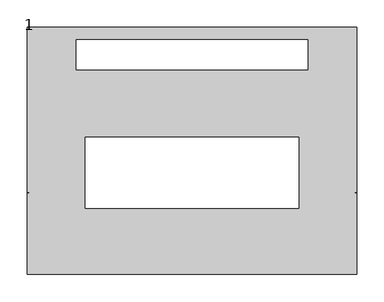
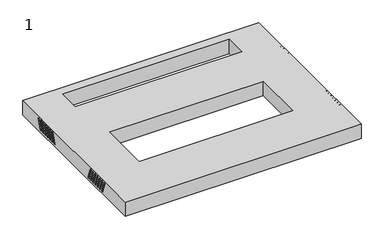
"""IFC4 building model written with IfcOpenShell, lengths in millimetres: proxy geometry, 1."""

from ifc_helpers import new_model, si_unit, frame, origin, place, context, project, spatial, polyline, circle_curve, source, transform, mapped, element, save
from ifc_brep_helpers import plane_surface, revolved_surface, advanced_brep


def proxy_1_b26e7d1d(model_context):
    return source(origin(), model_context, "Body", "AdvancedBrep", [
        advanced_brep(
        [(298.0, -135.8, 745.7479679), (298.0, -126.9074763, 721.3159597), (298.0, -123.1487058, 722.6840403), (298.0, -132.0412295, 747.1160484), (298.0, -125.8, 745.7479679), (298.0, -116.9074763, 721.3159597), (298.0, -113.1487058, 722.6840403), (298.0, -122.0412295, 747.1160484), (298.0, -115.8, 745.7479679), (298.0, -106.9074763, 721.3159597), (298.0, -103.1487058, 722.6840403), (298.0, -112.0412295, 747.1160484), (298.0, -105.8, 745.7479679), (298.0, -96.9074763, 721.3159597), (298.0, -93.1487058, 722.6840403), (298.0, -102.0412295, 747.1160484), (298.0, -95.8, 745.7479679), (298.0, -86.9074763, 721.3159597), (298.0, -83.1487058, 722.6840403), (298.0, -92.0412295, 747.1160484), (298.0, -85.8, 745.7479679), (298.0, -76.9074763, 721.3159597), (298.0, -73.1487058, 722.6840403), (298.0, -82.0412295, 747.1160484), (298.0, -75.8, 745.7479679), (298.0, -66.9074763, 721.3159597), (298.0, -63.1487058, 722.6840403), (298.0, -72.0412295, 747.1160484), (300.0, -132.0412295, 747.1160484), (300.0, -135.8, 745.7479679), (300.0, -123.1487058, 722.6840403), (300.0, -126.9074763, 721.3159597), (300.0, -122.0412295, 747.1160484), (300.0, -125.8, 745.7479679), (300.0, -113.1487058, 722.6840403), (300.0, -116.9074763, 721.3159597), (300.0, -112.0412295, 747.1160484), (300.0, -115.8, 745.7479679), (300.0, -103.1487058, 722.6840403), (300.0, -106.9074763, 721.3159597), (300.0, -102.0412295, 747.1160484), (300.0, -105.8, 745.7479679), (300.0, -93.1487058, 722.6840403), (300.0, -96.9074763, 721.3159597), (300.0, -92.0412295, 747.1160484), (300.0, -95.8, 745.7479679), (300.0, -83.1487058, 722.6840403), (300.0, -86.9074763, 721.3159597), (300.0, -82.0412295, 747.1160484), (300.0, -85.8, 745.7479679), (300.0, -73.1487058, 722.6840403), (300.0, -76.9074763, 721.3159597), (300.0, -72.0412295, 747.1160484), (300.0, -75.8, 745.7479679), (300.0, -63.1487058, 722.6840403), (300.0, -66.9074763, 721.3159597), (300.0, 225.0, 714.0), (300.0, -225.0, 714.0), (-300.0, -225.0, 714.0), (-300.0, 225.0, 714.0), (-211.0, 147.5, 714.0), (211.0, 147.5, 714.0), (211.0, 202.5, 714.0), (-211.0, 202.5, 714.0), (195.0, 25.0, 714.0), (-195.0, 25.0, 714.0), (-195.0, -105.0, 714.0), (195.0, -105.0, 714.0), (300.0, 225.0, 752.0), (-300.0, 225.0, 752.0), (-300.0, -225.0, 752.0), (300.0, -225.0, 752.0), (-211.0, 147.5, 752.0), (-211.0, 202.5, 752.0), (211.0, 202.5, 752.0), (211.0, 147.5, 752.0), (195.0, 25.0, 752.0), (195.0, -105.0, 752.0), (-195.0, -105.0, 752.0), (-195.0, 25.0, 752.0), (-300.0, -66.9074763, 721.3159597), (-300.0, -63.1487058, 722.6840403), (-300.0, -72.0412295, 747.1160484), (-300.0, -75.8, 745.7479679), (-300.0, -76.9074763, 721.3159597), (-300.0, -73.1487058, 722.6840403), (-300.0, -82.0412295, 747.1160484), (-300.0, -85.8, 745.7479679), (-300.0, -86.9074763, 721.3159597), (-300.0, -83.1487058, 722.6840403), (-300.0, -92.0412295, 747.1160484), (-300.0, -95.8, 745.7479679), (-300.0, -96.9074763, 721.3159597), (-300.0, -93.1487058, 722.6840403), (-300.0, -102.0412295, 747.1160484), (-300.0, -105.8, 745.7479679), (-300.0, -106.9074763, 721.3159597), (-300.0, -103.1487058, 722.6840403), (-300.0, -112.0412295, 747.1160484), (-300.0, -115.8, 745.7479679), (-300.0, -116.9074763, 721.3159597), (-300.0, -113.1487058, 722.6840403), (-300.0, -122.0412295, 747.1160484), (-300.0, -125.8, 745.7479679), (-300.0, -126.9074763, 721.3159597), (-300.0, -123.1487058, 722.6840403), (-300.0, -132.0412295, 747.1160484), (-300.0, -135.8, 745.7479679), (-300.0, 96.0, 745.7479679), (-300.0, 92.2412295, 747.1160484), (-300.0, 83.3487058, 722.6840403), (-300.0, 87.1074763, 721.3159597), (-300.0, 106.0, 745.7479679), (-300.0, 102.2412295, 747.1160484), (-300.0, 93.3487058, 722.6840403), (-300.0, 97.1074763, 721.3159597), (-300.0, 116.0, 745.7479679), (-300.0, 112.2412295, 747.1160484), (-300.0, 103.3487058, 722.6840403), (-300.0, 107.1074763, 721.3159597), (-300.0, 126.0, 745.7479679), (-300.0, 122.2412295, 747.1160484), (-300.0, 113.3487058, 722.6840403), (-300.0, 117.1074763, 721.3159597), (-300.0, 136.0, 745.7479679), (-300.0, 132.2412295, 747.1160484), (-300.0, 123.3487058, 722.6840403), (-300.0, 127.1074763, 721.3159597), (-300.0, 146.0, 745.7479679), (-300.0, 142.2412295, 747.1160484), (-300.0, 133.3487058, 722.6840403), (-300.0, 137.1074763, 721.3159597), (-300.0, 156.0, 745.7479679), (-300.0, 152.2412295, 747.1160484), (-300.0, 143.3487058, 722.6840403), (-300.0, 147.1074763, 721.3159597), (300.0, 152.2412295, 747.1160484), (300.0, 156.0, 745.7479679), (300.0, 147.1074763, 721.3159597), (300.0, 143.3487058, 722.6840403), (300.0, 142.2412295, 747.1160484), (300.0, 146.0, 745.7479679), (300.0, 137.1074763, 721.3159597), (300.0, 133.3487058, 722.6840403), (300.0, 132.2412295, 747.1160484), (300.0, 136.0, 745.7479679), (300.0, 127.1074763, 721.3159597), (300.0, 123.3487058, 722.6840403), (300.0, 122.2412295, 747.1160484), (300.0, 126.0, 745.7479679), (300.0, 117.1074763, 721.3159597), (300.0, 113.3487058, 722.6840403), (300.0, 112.2412295, 747.1160484), (300.0, 116.0, 745.7479679), (300.0, 107.1074763, 721.3159597), (300.0, 103.3487058, 722.6840403), (300.0, 102.2412295, 747.1160484), (300.0, 106.0, 745.7479679), (300.0, 97.1074763, 721.3159597), (300.0, 93.3487058, 722.6840403), (300.0, 92.2412295, 747.1160484), (300.0, 96.0, 745.7479679), (300.0, 87.1074763, 721.3159597), (300.0, 83.3487058, 722.6840403), (298.0, 156.0, 745.7479679), (298.0, 152.2412295, 747.1160484), (298.0, 143.3487058, 722.6840403), (298.0, 147.1074763, 721.3159597), (298.0, 146.0, 745.7479679), (298.0, 142.2412295, 747.1160484), (298.0, 133.3487058, 722.6840403), (298.0, 137.1074763, 721.3159597), (298.0, 136.0, 745.7479679), (298.0, 132.2412295, 747.1160484), (298.0, 123.3487058, 722.6840403), (298.0, 127.1074763, 721.3159597), (298.0, 126.0, 745.7479679), (298.0, 122.2412295, 747.1160484), (298.0, 113.3487058, 722.6840403), (298.0, 117.1074763, 721.3159597), (298.0, 116.0, 745.7479679), (298.0, 112.2412295, 747.1160484), (298.0, 103.3487058, 722.6840403), (298.0, 107.1074763, 721.3159597), (298.0, 106.0, 745.7479679), (298.0, 102.2412295, 747.1160484), (298.0, 93.3487058, 722.6840403), (298.0, 97.1074763, 721.3159597), (298.0, 96.0, 745.7479679), (298.0, 92.2412295, 747.1160484), (298.0, 83.3487058, 722.6840403), (298.0, 87.1074763, 721.3159597), (-298.0, -63.1487058, 722.6840403), (-298.0, -66.9074763, 721.3159597), (-298.0, -75.8, 745.7479679), (-298.0, -72.0412295, 747.1160484), (-298.0, -73.1487058, 722.6840403), (-298.0, -76.9074763, 721.3159597), (-298.0, -85.8, 745.7479679), (-298.0, -82.0412295, 747.1160484), (-298.0, -83.1487058, 722.6840403), (-298.0, -86.9074763, 721.3159597), (-298.0, -95.8, 745.7479679), (-298.0, -92.0412295, 747.1160484), (-298.0, -93.1487058, 722.6840403), (-298.0, -96.9074763, 721.3159597), (-298.0, -105.8, 745.7479679), (-298.0, -102.0412295, 747.1160484), (-298.0, -103.1487058, 722.6840403), (-298.0, -106.9074763, 721.3159597), (-298.0, -115.8, 745.7479679), (-298.0, -112.0412295, 747.1160484), (-298.0, -113.1487058, 722.6840403), (-298.0, -116.9074763, 721.3159597), (-298.0, -125.8, 745.7479679), (-298.0, -122.0412295, 747.1160484), (-298.0, -123.1487058, 722.6840403), (-298.0, -126.9074763, 721.3159597), (-298.0, -135.8, 745.7479679), (-298.0, -132.0412295, 747.1160484), (-298.0, 92.2412295, 747.1160484), (-298.0, 96.0, 745.7479679), (-298.0, 87.1074763, 721.3159597), (-298.0, 83.3487058, 722.6840403), (-298.0, 102.2412295, 747.1160484), (-298.0, 106.0, 745.7479679), (-298.0, 97.1074763, 721.3159597), (-298.0, 93.3487058, 722.6840403), (-298.0, 112.2412295, 747.1160484), (-298.0, 116.0, 745.7479679), (-298.0, 107.1074763, 721.3159597), (-298.0, 103.3487058, 722.6840403), (-298.0, 122.2412295, 747.1160484), (-298.0, 126.0, 745.7479679), (-298.0, 117.1074763, 721.3159597), (-298.0, 113.3487058, 722.6840403), (-298.0, 132.2412295, 747.1160484), (-298.0, 136.0, 745.7479679), (-298.0, 127.1074763, 721.3159597), (-298.0, 123.3487058, 722.6840403), (-298.0, 142.2412295, 747.1160484), (-298.0, 146.0, 745.7479679), (-298.0, 137.1074763, 721.3159597), (-298.0, 133.3487058, 722.6840403), (-298.0, 152.2412295, 747.1160484), (-298.0, 156.0, 745.7479679), (-298.0, 147.1074763, 721.3159597), (-298.0, 143.3487058, 722.6840403)],
        [
            (0, 1),
            (1, 2, circle_curve(frame((298.0, -125.028091, 722.0), z_axis=(1.0, 0.0, 0.0), x_axis=(0.0, -1.0, 0.0)), 2.0)),
            (2, 3),
            (3, 0, circle_curve(frame((298.0, -133.9206148, 746.4320081), z_axis=(1.0, 0.0, 0.0), x_axis=(0.0, -1.0, 0.0)), 2.0)),
            (4, 5),
            (5, 6, circle_curve(frame((298.0, -115.028091, 722.0), z_axis=(1.0, 0.0, 0.0), x_axis=(0.0, -1.0, 0.0)), 2.0)),
            (6, 7),
            (7, 4, circle_curve(frame((298.0, -123.9206148, 746.4320081), z_axis=(1.0, 0.0, 0.0), x_axis=(0.0, -1.0, 0.0)), 2.0)),
            (8, 9),
            (9, 10, circle_curve(frame((298.0, -105.028091, 722.0), z_axis=(1.0, 0.0, 0.0), x_axis=(0.0, -1.0, 0.0)), 2.0)),
            (10, 11),
            (11, 8, circle_curve(frame((298.0, -113.9206148, 746.4320081), z_axis=(1.0, 0.0, 0.0), x_axis=(0.0, -1.0, 0.0)), 2.0)),
            (12, 13),
            (13, 14, circle_curve(frame((298.0, -95.028091, 722.0), z_axis=(1.0, 0.0, 0.0), x_axis=(0.0, -1.0, 0.0)), 2.0)),
            (14, 15),
            (15, 12, circle_curve(frame((298.0, -103.9206148, 746.4320081), z_axis=(1.0, 0.0, 0.0), x_axis=(0.0, -1.0, 0.0)), 2.0)),
            (16, 17),
            (17, 18, circle_curve(frame((298.0, -85.028091, 722.0), z_axis=(1.0, 0.0, 0.0), x_axis=(0.0, -1.0, 0.0)), 2.0)),
            (18, 19),
            (19, 16, circle_curve(frame((298.0, -93.9206148, 746.4320081), z_axis=(1.0, 0.0, 0.0), x_axis=(0.0, -1.0, 0.0)), 2.0)),
            (20, 21),
            (21, 22, circle_curve(frame((298.0, -75.028091, 722.0), z_axis=(1.0, 0.0, 0.0), x_axis=(0.0, -1.0, 0.0)), 2.0)),
            (22, 23),
            (23, 20, circle_curve(frame((298.0, -83.9206148, 746.4320081), z_axis=(1.0, 0.0, 0.0), x_axis=(0.0, -1.0, 0.0)), 2.0)),
            (24, 25),
            (25, 26, circle_curve(frame((298.0, -65.028091, 722.0), z_axis=(1.0, 0.0, 0.0), x_axis=(0.0, -1.0, 0.0)), 2.0)),
            (26, 27),
            (27, 24, circle_curve(frame((298.0, -73.9206148, 746.4320081), z_axis=(1.0, 0.0, 0.0), x_axis=(0.0, -1.0, 0.0)), 2.0)),
            (3, 28),
            (28, 29, circle_curve(frame((300.0, -133.9206148, 746.4320081), z_axis=(1.0, 0.0, 0.0), x_axis=(0.0, -1.0, 0.0)), 2.0)),
            (29, 0),
            (2, 30),
            (30, 28),
            (1, 31),
            (31, 30, circle_curve(frame((300.0, -125.028091, 722.0), z_axis=(1.0, 0.0, 0.0), x_axis=(0.0, -1.0, 0.0)), 2.0)),
            (29, 31),
            (7, 32),
            (32, 33, circle_curve(frame((300.0, -123.9206148, 746.4320081), z_axis=(1.0, 0.0, 0.0), x_axis=(0.0, -1.0, 0.0)), 2.0)),
            (33, 4),
            (6, 34),
            (34, 32),
            (5, 35),
            (35, 34, circle_curve(frame((300.0, -115.028091, 722.0), z_axis=(1.0, 0.0, 0.0), x_axis=(0.0, -1.0, 0.0)), 2.0)),
            (33, 35),
            (11, 36),
            (36, 37, circle_curve(frame((300.0, -113.9206148, 746.4320081), z_axis=(1.0, 0.0, 0.0), x_axis=(0.0, -1.0, 0.0)), 2.0)),
            (37, 8),
            (10, 38),
            (38, 36),
            (9, 39),
            (39, 38, circle_curve(frame((300.0, -105.028091, 722.0), z_axis=(1.0, 0.0, 0.0), x_axis=(0.0, -1.0, 0.0)), 2.0)),
            (37, 39),
            (15, 40),
            (40, 41, circle_curve(frame((300.0, -103.9206148, 746.4320081), z_axis=(1.0, 0.0, 0.0), x_axis=(0.0, -1.0, 0.0)), 2.0)),
            (41, 12),
            (14, 42),
            (42, 40),
            (13, 43),
            (43, 42, circle_curve(frame((300.0, -95.028091, 722.0), z_axis=(1.0, 0.0, 0.0), x_axis=(0.0, -1.0, 0.0)), 2.0)),
            (41, 43),
            (19, 44),
            (44, 45, circle_curve(frame((300.0, -93.9206148, 746.4320081), z_axis=(1.0, 0.0, 0.0), x_axis=(0.0, -1.0, 0.0)), 2.0)),
            (45, 16),
            (18, 46),
            (46, 44),
            (17, 47),
            (47, 46, circle_curve(frame((300.0, -85.028091, 722.0), z_axis=(1.0, 0.0, 0.0), x_axis=(0.0, -1.0, 0.0)), 2.0)),
            (45, 47),
            (23, 48),
            (48, 49, circle_curve(frame((300.0, -83.9206148, 746.4320081), z_axis=(1.0, 0.0, 0.0), x_axis=(0.0, -1.0, 0.0)), 2.0)),
            (49, 20),
            (22, 50),
            (50, 48),
            (21, 51),
            (51, 50, circle_curve(frame((300.0, -75.028091, 722.0), z_axis=(1.0, 0.0, 0.0), x_axis=(0.0, -1.0, 0.0)), 2.0)),
            (49, 51),
            (27, 52),
            (52, 53, circle_curve(frame((300.0, -73.9206148, 746.4320081), z_axis=(1.0, 0.0, 0.0), x_axis=(0.0, -1.0, 0.0)), 2.0)),
            (53, 24),
            (26, 54),
            (54, 52),
            (25, 55),
            (55, 54, circle_curve(frame((300.0, -65.028091, 722.0), z_axis=(1.0, 0.0, 0.0), x_axis=(0.0, -1.0, 0.0)), 2.0)),
            (53, 55),
            (56, 57),
            (57, 58),
            (58, 59),
            (59, 56),
            (60, 61),
            (61, 62),
            (62, 63),
            (63, 60),
            (64, 65),
            (65, 66),
            (66, 67),
            (67, 64),
            (68, 69),
            (69, 70),
            (70, 71),
            (71, 68),
            (72, 73),
            (73, 74),
            (74, 75),
            (75, 72),
            (76, 77),
            (77, 78),
            (78, 79),
            (79, 76),
            (59, 69),
            (68, 56),
            (58, 70),
            (80, 81, circle_curve(frame((-300.0, -65.028091, 722.0), z_axis=(1.0, 0.0, 0.0), x_axis=(0.0, 1.0, 0.0)), 2.0)),
            (81, 82),
            (82, 83, circle_curve(frame((-300.0, -73.9206148, 746.4320081), z_axis=(1.0, 0.0, 0.0), x_axis=(0.0, 1.0, 0.0)), 2.0)),
            (83, 80),
            (84, 85, circle_curve(frame((-300.0, -75.028091, 722.0), z_axis=(1.0, 0.0, 0.0), x_axis=(0.0, 1.0, 0.0)), 2.0)),
            (85, 86),
            (86, 87, circle_curve(frame((-300.0, -83.9206148, 746.4320081), z_axis=(1.0, 0.0, 0.0), x_axis=(0.0, 1.0, 0.0)), 2.0)),
            (87, 84),
            (88, 89, circle_curve(frame((-300.0, -85.028091, 722.0), z_axis=(1.0, 0.0, 0.0), x_axis=(0.0, 1.0, 0.0)), 2.0)),
            (89, 90),
            (90, 91, circle_curve(frame((-300.0, -93.9206148, 746.4320081), z_axis=(1.0, 0.0, 0.0), x_axis=(0.0, 1.0, 0.0)), 2.0)),
            (91, 88),
            (92, 93, circle_curve(frame((-300.0, -95.028091, 722.0), z_axis=(1.0, 0.0, 0.0), x_axis=(0.0, 1.0, 0.0)), 2.0)),
            (93, 94),
            (94, 95, circle_curve(frame((-300.0, -103.9206148, 746.4320081), z_axis=(1.0, 0.0, 0.0), x_axis=(0.0, 1.0, 0.0)), 2.0)),
            (95, 92),
            (96, 97, circle_curve(frame((-300.0, -105.028091, 722.0), z_axis=(1.0, 0.0, 0.0), x_axis=(0.0, 1.0, 0.0)), 2.0)),
            (97, 98),
            (98, 99, circle_curve(frame((-300.0, -113.9206148, 746.4320081), z_axis=(1.0, 0.0, 0.0), x_axis=(0.0, 1.0, 0.0)), 2.0)),
            (99, 96),
            (100, 101, circle_curve(frame((-300.0, -115.028091, 722.0), z_axis=(1.0, 0.0, 0.0), x_axis=(0.0, 1.0, 0.0)), 2.0)),
            (101, 102),
            (102, 103, circle_curve(frame((-300.0, -123.9206148, 746.4320081), z_axis=(1.0, 0.0, 0.0), x_axis=(0.0, 1.0, 0.0)), 2.0)),
            (103, 100),
            (104, 105, circle_curve(frame((-300.0, -125.028091, 722.0), z_axis=(1.0, 0.0, 0.0), x_axis=(0.0, 1.0, 0.0)), 2.0)),
            (105, 106),
            (106, 107, circle_curve(frame((-300.0, -133.9206148, 746.4320081), z_axis=(1.0, 0.0, 0.0), x_axis=(0.0, 1.0, 0.0)), 2.0)),
            (107, 104),
            (108, 109, circle_curve(frame((-300.0, 94.1206148, 746.4320081), z_axis=(1.0, 0.0, 0.0), x_axis=(0.0, 1.0, 0.0)), 2.0)),
            (109, 110),
            (110, 111, circle_curve(frame((-300.0, 85.228091, 722.0), z_axis=(1.0, 0.0, 0.0), x_axis=(0.0, 1.0, 0.0)), 2.0)),
            (111, 108),
            (112, 113, circle_curve(frame((-300.0, 104.1206148, 746.4320081), z_axis=(1.0, 0.0, 0.0), x_axis=(0.0, 1.0, 0.0)), 2.0)),
            (113, 114),
            (114, 115, circle_curve(frame((-300.0, 95.228091, 722.0), z_axis=(1.0, 0.0, 0.0), x_axis=(0.0, 1.0, 0.0)), 2.0)),
            (115, 112),
            (116, 117, circle_curve(frame((-300.0, 114.1206148, 746.4320081), z_axis=(1.0, 0.0, 0.0), x_axis=(0.0, 1.0, 0.0)), 2.0)),
            (117, 118),
            (118, 119, circle_curve(frame((-300.0, 105.228091, 722.0), z_axis=(1.0, 0.0, 0.0), x_axis=(0.0, 1.0, 0.0)), 2.0)),
            (119, 116),
            (120, 121, circle_curve(frame((-300.0, 124.1206148, 746.4320081), z_axis=(1.0, 0.0, 0.0), x_axis=(0.0, 1.0, 0.0)), 2.0)),
            (121, 122),
            (122, 123, circle_curve(frame((-300.0, 115.228091, 722.0), z_axis=(1.0, 0.0, 0.0), x_axis=(0.0, 1.0, 0.0)), 2.0)),
            (123, 120),
            (124, 125, circle_curve(frame((-300.0, 134.1206148, 746.4320081), z_axis=(1.0, 0.0, 0.0), x_axis=(0.0, 1.0, 0.0)), 2.0)),
            (125, 126),
            (126, 127, circle_curve(frame((-300.0, 125.228091, 722.0), z_axis=(1.0, 0.0, 0.0), x_axis=(0.0, 1.0, 0.0)), 2.0)),
            (127, 124),
            (128, 129, circle_curve(frame((-300.0, 144.1206148, 746.4320081), z_axis=(1.0, 0.0, 0.0), x_axis=(0.0, 1.0, 0.0)), 2.0)),
            (129, 130),
            (130, 131, circle_curve(frame((-300.0, 135.228091, 722.0), z_axis=(1.0, 0.0, 0.0), x_axis=(0.0, 1.0, 0.0)), 2.0)),
            (131, 128),
            (132, 133, circle_curve(frame((-300.0, 154.1206148, 746.4320081), z_axis=(1.0, 0.0, 0.0), x_axis=(0.0, 1.0, 0.0)), 2.0)),
            (133, 134),
            (134, 135, circle_curve(frame((-300.0, 145.228091, 722.0), z_axis=(1.0, 0.0, 0.0), x_axis=(0.0, 1.0, 0.0)), 2.0)),
            (135, 132),
            (57, 71),
            (136, 137, circle_curve(frame((300.0, 154.1206148, 746.4320081), z_axis=(-1.0, 0.0, 0.0), x_axis=(0.0, 1.0, 0.0)), 2.0)),
            (137, 138),
            (138, 139, circle_curve(frame((300.0, 145.228091, 722.0), z_axis=(-1.0, 0.0, 0.0), x_axis=(0.0, 1.0, 0.0)), 2.0)),
            (139, 136),
            (140, 141, circle_curve(frame((300.0, 144.1206148, 746.4320081), z_axis=(-1.0, 0.0, 0.0), x_axis=(0.0, 1.0, 0.0)), 2.0)),
            (141, 142),
            (142, 143, circle_curve(frame((300.0, 135.228091, 722.0), z_axis=(-1.0, 0.0, 0.0), x_axis=(0.0, 1.0, 0.0)), 2.0)),
            (143, 140),
            (144, 145, circle_curve(frame((300.0, 134.1206148, 746.4320081), z_axis=(-1.0, 0.0, 0.0), x_axis=(0.0, 1.0, 0.0)), 2.0)),
            (145, 146),
            (146, 147, circle_curve(frame((300.0, 125.228091, 722.0), z_axis=(-1.0, 0.0, 0.0), x_axis=(0.0, 1.0, 0.0)), 2.0)),
            (147, 144),
            (148, 149, circle_curve(frame((300.0, 124.1206148, 746.4320081), z_axis=(-1.0, 0.0, 0.0), x_axis=(0.0, 1.0, 0.0)), 2.0)),
            (149, 150),
            (150, 151, circle_curve(frame((300.0, 115.228091, 722.0), z_axis=(-1.0, 0.0, 0.0), x_axis=(0.0, 1.0, 0.0)), 2.0)),
            (151, 148),
            (152, 153, circle_curve(frame((300.0, 114.1206148, 746.4320081), z_axis=(-1.0, 0.0, 0.0), x_axis=(0.0, 1.0, 0.0)), 2.0)),
            (153, 154),
            (154, 155, circle_curve(frame((300.0, 105.228091, 722.0), z_axis=(-1.0, 0.0, 0.0), x_axis=(0.0, 1.0, 0.0)), 2.0)),
            (155, 152),
            (156, 157, circle_curve(frame((300.0, 104.1206148, 746.4320081), z_axis=(-1.0, 0.0, 0.0), x_axis=(0.0, 1.0, 0.0)), 2.0)),
            (157, 158),
            (158, 159, circle_curve(frame((300.0, 95.228091, 722.0), z_axis=(-1.0, 0.0, 0.0), x_axis=(0.0, 1.0, 0.0)), 2.0)),
            (159, 156),
            (160, 161, circle_curve(frame((300.0, 94.1206148, 746.4320081), z_axis=(-1.0, 0.0, 0.0), x_axis=(0.0, 1.0, 0.0)), 2.0)),
            (161, 162),
            (162, 163, circle_curve(frame((300.0, 85.228091, 722.0), z_axis=(-1.0, 0.0, 0.0), x_axis=(0.0, 1.0, 0.0)), 2.0)),
            (163, 160),
            (63, 73),
            (72, 60),
            (62, 74),
            (61, 75),
            (67, 77),
            (76, 64),
            (66, 78),
            (65, 79),
            (164, 165, circle_curve(frame((298.0, 154.1206148, 746.4320081), z_axis=(1.0, 0.0, 0.0), x_axis=(0.0, 1.0, 0.0)), 2.0)),
            (165, 166),
            (166, 167, circle_curve(frame((298.0, 145.228091, 722.0), z_axis=(1.0, 0.0, 0.0), x_axis=(0.0, 1.0, 0.0)), 2.0)),
            (167, 164),
            (168, 169, circle_curve(frame((298.0, 144.1206148, 746.4320081), z_axis=(1.0, 0.0, 0.0), x_axis=(0.0, 1.0, 0.0)), 2.0)),
            (169, 170),
            (170, 171, circle_curve(frame((298.0, 135.228091, 722.0), z_axis=(1.0, 0.0, 0.0), x_axis=(0.0, 1.0, 0.0)), 2.0)),
            (171, 168),
            (172, 173, circle_curve(frame((298.0, 134.1206148, 746.4320081), z_axis=(1.0, 0.0, 0.0), x_axis=(0.0, 1.0, 0.0)), 2.0)),
            (173, 174),
            (174, 175, circle_curve(frame((298.0, 125.228091, 722.0), z_axis=(1.0, 0.0, 0.0), x_axis=(0.0, 1.0, 0.0)), 2.0)),
            (175, 172),
            (176, 177, circle_curve(frame((298.0, 124.1206148, 746.4320081), z_axis=(1.0, 0.0, 0.0), x_axis=(0.0, 1.0, 0.0)), 2.0)),
            (177, 178),
            (178, 179, circle_curve(frame((298.0, 115.228091, 722.0), z_axis=(1.0, 0.0, 0.0), x_axis=(0.0, 1.0, 0.0)), 2.0)),
            (179, 176),
            (180, 181, circle_curve(frame((298.0, 114.1206148, 746.4320081), z_axis=(1.0, 0.0, 0.0), x_axis=(0.0, 1.0, 0.0)), 2.0)),
            (181, 182),
            (182, 183, circle_curve(frame((298.0, 105.228091, 722.0), z_axis=(1.0, 0.0, 0.0), x_axis=(0.0, 1.0, 0.0)), 2.0)),
            (183, 180),
            (184, 185, circle_curve(frame((298.0, 104.1206148, 746.4320081), z_axis=(1.0, 0.0, 0.0), x_axis=(0.0, 1.0, 0.0)), 2.0)),
            (185, 186),
            (186, 187, circle_curve(frame((298.0, 95.228091, 722.0), z_axis=(1.0, 0.0, 0.0), x_axis=(0.0, 1.0, 0.0)), 2.0)),
            (187, 184),
            (188, 189, circle_curve(frame((298.0, 94.1206148, 746.4320081), z_axis=(1.0, 0.0, 0.0), x_axis=(0.0, 1.0, 0.0)), 2.0)),
            (189, 190),
            (190, 191, circle_curve(frame((298.0, 85.228091, 722.0), z_axis=(1.0, 0.0, 0.0), x_axis=(0.0, 1.0, 0.0)), 2.0)),
            (191, 188),
            (164, 137),
            (136, 165),
            (139, 166),
            (138, 167),
            (168, 141),
            (140, 169),
            (143, 170),
            (142, 171),
            (172, 145),
            (144, 173),
            (147, 174),
            (146, 175),
            (176, 149),
            (148, 177),
            (151, 178),
            (150, 179),
            (180, 153),
            (152, 181),
            (155, 182),
            (154, 183),
            (184, 157),
            (156, 185),
            (159, 186),
            (158, 187),
            (188, 161),
            (160, 189),
            (163, 190),
            (162, 191),
            (192, 193, circle_curve(frame((-298.0, -65.028091, 722.0), z_axis=(-1.0, 0.0, 0.0), x_axis=(0.0, 1.0, 0.0)), 2.0)),
            (193, 194),
            (194, 195, circle_curve(frame((-298.0, -73.9206148, 746.4320081), z_axis=(-1.0, 0.0, 0.0), x_axis=(0.0, 1.0, 0.0)), 2.0)),
            (195, 192),
            (196, 197, circle_curve(frame((-298.0, -75.028091, 722.0), z_axis=(-1.0, 0.0, 0.0), x_axis=(0.0, 1.0, 0.0)), 2.0)),
            (197, 198),
            (198, 199, circle_curve(frame((-298.0, -83.9206148, 746.4320081), z_axis=(-1.0, 0.0, 0.0), x_axis=(0.0, 1.0, 0.0)), 2.0)),
            (199, 196),
            (200, 201, circle_curve(frame((-298.0, -85.028091, 722.0), z_axis=(-1.0, 0.0, 0.0), x_axis=(0.0, 1.0, 0.0)), 2.0)),
            (201, 202),
            (202, 203, circle_curve(frame((-298.0, -93.9206148, 746.4320081), z_axis=(-1.0, 0.0, 0.0), x_axis=(0.0, 1.0, 0.0)), 2.0)),
            (203, 200),
            (204, 205, circle_curve(frame((-298.0, -95.028091, 722.0), z_axis=(-1.0, 0.0, 0.0), x_axis=(0.0, 1.0, 0.0)), 2.0)),
            (205, 206),
            (206, 207, circle_curve(frame((-298.0, -103.9206148, 746.4320081), z_axis=(-1.0, 0.0, 0.0), x_axis=(0.0, 1.0, 0.0)), 2.0)),
            (207, 204),
            (208, 209, circle_curve(frame((-298.0, -105.028091, 722.0), z_axis=(-1.0, 0.0, 0.0), x_axis=(0.0, 1.0, 0.0)), 2.0)),
            (209, 210),
            (210, 211, circle_curve(frame((-298.0, -113.9206148, 746.4320081), z_axis=(-1.0, 0.0, 0.0), x_axis=(0.0, 1.0, 0.0)), 2.0)),
            (211, 208),
            (212, 213, circle_curve(frame((-298.0, -115.028091, 722.0), z_axis=(-1.0, 0.0, 0.0), x_axis=(0.0, 1.0, 0.0)), 2.0)),
            (213, 214),
            (214, 215, circle_curve(frame((-298.0, -123.9206148, 746.4320081), z_axis=(-1.0, 0.0, 0.0), x_axis=(0.0, 1.0, 0.0)), 2.0)),
            (215, 212),
            (216, 217, circle_curve(frame((-298.0, -125.028091, 722.0), z_axis=(-1.0, 0.0, 0.0), x_axis=(0.0, 1.0, 0.0)), 2.0)),
            (217, 218),
            (218, 219, circle_curve(frame((-298.0, -133.9206148, 746.4320081), z_axis=(-1.0, 0.0, 0.0), x_axis=(0.0, 1.0, 0.0)), 2.0)),
            (219, 216),
            (192, 81),
            (80, 193),
            (83, 194),
            (82, 195),
            (196, 85),
            (84, 197),
            (87, 198),
            (86, 199),
            (200, 89),
            (88, 201),
            (91, 202),
            (90, 203),
            (204, 93),
            (92, 205),
            (95, 206),
            (94, 207),
            (208, 97),
            (96, 209),
            (99, 210),
            (98, 211),
            (212, 101),
            (100, 213),
            (103, 214),
            (102, 215),
            (216, 105),
            (104, 217),
            (107, 218),
            (106, 219),
            (220, 221, circle_curve(frame((-298.0, 94.1206148, 746.4320081), z_axis=(-1.0, 0.0, 0.0), x_axis=(0.0, 1.0, 0.0)), 2.0)),
            (221, 222),
            (222, 223, circle_curve(frame((-298.0, 85.228091, 722.0), z_axis=(-1.0, 0.0, 0.0), x_axis=(0.0, 1.0, 0.0)), 2.0)),
            (223, 220),
            (224, 225, circle_curve(frame((-298.0, 104.1206148, 746.4320081), z_axis=(-1.0, 0.0, 0.0), x_axis=(0.0, 1.0, 0.0)), 2.0)),
            (225, 226),
            (226, 227, circle_curve(frame((-298.0, 95.228091, 722.0), z_axis=(-1.0, 0.0, 0.0), x_axis=(0.0, 1.0, 0.0)), 2.0)),
            (227, 224),
            (228, 229, circle_curve(frame((-298.0, 114.1206148, 746.4320081), z_axis=(-1.0, 0.0, 0.0), x_axis=(0.0, 1.0, 0.0)), 2.0)),
            (229, 230),
            (230, 231, circle_curve(frame((-298.0, 105.228091, 722.0), z_axis=(-1.0, 0.0, 0.0), x_axis=(0.0, 1.0, 0.0)), 2.0)),
            (231, 228),
            (232, 233, circle_curve(frame((-298.0, 124.1206148, 746.4320081), z_axis=(-1.0, 0.0, 0.0), x_axis=(0.0, 1.0, 0.0)), 2.0)),
            (233, 234),
            (234, 235, circle_curve(frame((-298.0, 115.228091, 722.0), z_axis=(-1.0, 0.0, 0.0), x_axis=(0.0, 1.0, 0.0)), 2.0)),
            (235, 232),
            (236, 237, circle_curve(frame((-298.0, 134.1206148, 746.4320081), z_axis=(-1.0, 0.0, 0.0), x_axis=(0.0, 1.0, 0.0)), 2.0)),
            (237, 238),
            (238, 239, circle_curve(frame((-298.0, 125.228091, 722.0), z_axis=(-1.0, 0.0, 0.0), x_axis=(0.0, 1.0, 0.0)), 2.0)),
            (239, 236),
            (240, 241, circle_curve(frame((-298.0, 144.1206148, 746.4320081), z_axis=(-1.0, 0.0, 0.0), x_axis=(0.0, 1.0, 0.0)), 2.0)),
            (241, 242),
            (242, 243, circle_curve(frame((-298.0, 135.228091, 722.0), z_axis=(-1.0, 0.0, 0.0), x_axis=(0.0, 1.0, 0.0)), 2.0)),
            (243, 240),
            (244, 245, circle_curve(frame((-298.0, 154.1206148, 746.4320081), z_axis=(-1.0, 0.0, 0.0), x_axis=(0.0, 1.0, 0.0)), 2.0)),
            (245, 246),
            (246, 247, circle_curve(frame((-298.0, 145.228091, 722.0), z_axis=(-1.0, 0.0, 0.0), x_axis=(0.0, 1.0, 0.0)), 2.0)),
            (247, 244),
            (220, 109),
            (108, 221),
            (111, 222),
            (110, 223),
            (224, 113),
            (112, 225),
            (115, 226),
            (114, 227),
            (228, 117),
            (116, 229),
            (119, 230),
            (118, 231),
            (232, 121),
            (120, 233),
            (123, 234),
            (122, 235),
            (236, 125),
            (124, 237),
            (127, 238),
            (126, 239),
            (240, 129),
            (128, 241),
            (131, 242),
            (130, 243),
            (244, 133),
            (132, 245),
            (135, 246),
            (134, 247),
        ],
        [
            plane_surface(frame((298.0, -126.9074763, 721.3159597), z_axis=(1.0000000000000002, 0.0, 0.0), x_axis=(0.0, -0.3420201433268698, 0.9396926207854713))),
            revolved_surface(polyline([(300.0, -135.9206148, 746.4320081), (298.0, -135.9206148, 746.4320081)]), (298.0, -133.9206148, 746.4320081), (1.0, 0.0, 0.0)),
            plane_surface(frame((300.0, -123.1487058, 722.6840403), z_axis=(0.0, -0.9396926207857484, -0.3420201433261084), x_axis=(-1.0, 0.0, 0.0))),
            revolved_surface(polyline([(300.0, -127.028091, 722.0), (298.0, -127.028091, 722.0)]), (298.0, -125.028091, 722.0), (1.0, 0.0, 0.0)),
            plane_surface(frame((300.0, -135.8, 745.7479679), z_axis=(0.0, 0.9396926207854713, 0.3420201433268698), x_axis=(-1.0, 0.0, 0.0))),
            revolved_surface(polyline([(300.0, -125.9206148, 746.4320081), (298.0, -125.9206148, 746.4320081)]), (300.0, -123.9206148, 746.4320081), (1.0, 0.0, 0.0)),
            plane_surface(frame((300.0, -113.1487058, 722.6840403), z_axis=(0.0, -0.9396926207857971, -0.3420201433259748), x_axis=(-1.0, 0.0, 0.0))),
            revolved_surface(polyline([(300.0, -117.028091, 722.0), (298.0, -117.028091, 722.0)]), (300.0, -115.028091, 722.0), (1.0, 0.0, 0.0)),
            plane_surface(frame((300.0, -125.8, 745.7479679), z_axis=(0.0, 0.9396926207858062, 0.34202014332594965), x_axis=(-1.0, 0.0, 0.0))),
            revolved_surface(polyline([(300.0, -115.9206148, 746.4320081), (298.0, -115.9206148, 746.4320081)]), (300.0, -113.9206148, 746.4320081), (1.0, 0.0, 0.0)),
            plane_surface(frame((300.0, -103.1487058, 722.6840403), z_axis=(0.0, -0.9396926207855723, -0.3420201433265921), x_axis=(-1.0, 0.0, 0.0))),
            revolved_surface(polyline([(300.0, -107.028091, 722.0), (298.0, -107.028091, 722.0)]), (300.0, -105.028091, 722.0), (1.0, 0.0, 0.0)),
            plane_surface(frame((300.0, -115.8, 745.7479679), z_axis=(0.0, 0.9396926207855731, 0.3420201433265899), x_axis=(-1.0, 0.0, 0.0))),
            revolved_surface(polyline([(300.0, -105.9206148, 746.4320081), (298.0, -105.9206148, 746.4320081)]), (300.0, -103.9206148, 746.4320081), (1.0, 0.0, 0.0)),
            plane_surface(frame((300.0, -93.1487058, 722.6840403), z_axis=(0.0, -0.9396926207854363, -0.34202014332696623), x_axis=(-1.0, 0.0, 0.0))),
            revolved_surface(polyline([(300.0, -97.028091, 722.0), (298.0, -97.028091, 722.0)]), (300.0, -95.028091, 722.0), (1.0, 0.0, 0.0)),
            plane_surface(frame((300.0, -105.8, 745.7479679), z_axis=(0.0, 0.9396926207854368, 0.34202014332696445), x_axis=(-1.0, 0.0, 0.0))),
            revolved_surface(polyline([(300.0, -95.9206148, 746.4320081), (298.0, -95.9206148, 746.4320081)]), (300.0, -93.9206148, 746.4320081), (1.0, 0.0, 0.0)),
            plane_surface(frame((300.0, -83.1487058, 722.6840403), z_axis=(0.0, -0.9396926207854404, -0.3420201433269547), x_axis=(-1.0, 0.0, 0.0))),
            revolved_surface(polyline([(300.0, -87.028091, 722.0), (298.0, -87.028091, 722.0)]), (300.0, -85.028091, 722.0), (1.0, 0.0, 0.0)),
            plane_surface(frame((300.0, -95.8, 745.7479679), z_axis=(0.0, 0.9396926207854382, 0.3420201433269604), x_axis=(-1.0, 0.0, 0.0))),
            revolved_surface(polyline([(300.0, -85.9206148, 746.4320081), (298.0, -85.9206148, 746.4320081)]), (300.0, -83.9206148, 746.4320081), (1.0, 0.0, 0.0)),
            plane_surface(frame((300.0, -73.1487058, 722.6840403), z_axis=(0.0, -0.9396926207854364, -0.3420201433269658), x_axis=(-1.0, 0.0, 0.0))),
            revolved_surface(polyline([(300.0, -77.028091, 722.0), (298.0, -77.028091, 722.0)]), (300.0, -75.028091, 722.0), (1.0, 0.0, 0.0)),
            plane_surface(frame((300.0, -85.8, 745.7479679), z_axis=(0.0, 0.9396926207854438, 0.3420201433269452), x_axis=(-1.0, 0.0, 0.0))),
            revolved_surface(polyline([(300.0, -75.9206148, 746.4320081), (298.0, -75.9206148, 746.4320081)]), (300.0, -73.9206148, 746.4320081), (1.0, 0.0, 0.0)),
            plane_surface(frame((300.0, -63.1487058, 722.6840403), z_axis=(0.0, -0.9396926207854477, -0.3420201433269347), x_axis=(-1.0, 0.0, 0.0))),
            revolved_surface(polyline([(300.0, -67.028091, 722.0), (298.0, -67.028091, 722.0)]), (300.0, -65.028091, 722.0), (1.0, 0.0, 0.0)),
            plane_surface(frame((300.0, -75.8, 745.7479679), z_axis=(0.0, 0.9396926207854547, 0.3420201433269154), x_axis=(-1.0, 0.0, 0.0))),
            plane_surface(frame((-300.0, 225.0, 714.0), z_axis=(0.0, 0.0, -1.0), x_axis=(1.0, 0.0, 0.0))),
            plane_surface(frame((-300.0, 225.0, 752.0), z_axis=(0.0, 0.0, 1.0), x_axis=(-1.0, 0.0, 0.0))),
            plane_surface(frame((300.0, 225.0, 752.0), z_axis=(0.0, 1.0, 0.0), x_axis=(0.0, 0.0, -1.0))),
            plane_surface(frame((-300.0, 225.0, 752.0), z_axis=(-1.0, 0.0, 0.0), x_axis=(0.0, 0.0, -1.0))),
            plane_surface(frame((-300.0, -225.0, 752.0), z_axis=(0.0, -1.0, 0.0), x_axis=(0.0, 0.0, -1.0))),
            plane_surface(frame((300.0, -225.0, 752.0), z_axis=(1.0, 0.0, 0.0), x_axis=(0.0, 0.0, -1.0))),
            plane_surface(frame((-211.0, 147.5, 752.0), z_axis=(1.0, 0.0, 0.0), x_axis=(0.0, 0.0, -1.0))),
            plane_surface(frame((-211.0, 202.5, 752.0), z_axis=(0.0, -1.0, 0.0), x_axis=(0.0, 0.0, -1.0))),
            plane_surface(frame((211.0, 202.5, 752.0), z_axis=(-1.0, 0.0, 0.0), x_axis=(0.0, 0.0, -1.0))),
            plane_surface(frame((211.0, 147.5, 752.0), z_axis=(0.0, 1.0, 0.0), x_axis=(0.0, 0.0, -1.0))),
            plane_surface(frame((195.0, 25.0, 752.0), z_axis=(-1.0, 0.0, 0.0), x_axis=(0.0, 0.0, -1.0))),
            plane_surface(frame((195.0, -105.0, 752.0), z_axis=(0.0, 1.0, 0.0), x_axis=(0.0, 0.0, -1.0))),
            plane_surface(frame((-195.0, -105.0, 752.0), z_axis=(1.0, 0.0, 0.0), x_axis=(0.0, 0.0, -1.0))),
            plane_surface(frame((-195.0, 25.0, 752.0), z_axis=(0.0, -1.0, 0.0), x_axis=(0.0, 0.0, -1.0))),
            plane_surface(frame((298.0, 156.1206148, 746.4320081), z_axis=(1.0, 0.0, 0.0), x_axis=(0.0, 0.0, -1.0))),
            revolved_surface(polyline([(300.0, 156.1206148, 746.4320081), (298.0, 156.1206148, 746.4320081)]), (298.0, 154.1206148, 746.4320081), (1.0, 0.0, 0.0)),
            plane_surface(frame((300.0, 152.2412295, 747.1160484), z_axis=(0.0, 0.9396926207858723, -0.34202014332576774), x_axis=(-1.0, 0.0, 0.0))),
            revolved_surface(polyline([(300.0, 147.228091, 722.0), (298.0, 147.228091, 722.0)]), (298.0, 145.228091, 722.0), (1.0, 0.0, 0.0)),
            plane_surface(frame((300.0, 147.1074763, 721.3159597), z_axis=(0.0, -0.9396926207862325, 0.3420201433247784), x_axis=(-1.0, 0.0, 0.0))),
            revolved_surface(polyline([(300.0, 146.1206148, 746.4320081), (298.0, 146.1206148, 746.4320081)]), (300.0, 144.1206148, 746.4320081), (1.0, 0.0, 0.0)),
            plane_surface(frame((300.0, 142.2412295, 747.1160484), z_axis=(0.0, 0.9396926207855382, -0.34202014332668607), x_axis=(-1.0, 0.0, 0.0))),
            revolved_surface(polyline([(300.0, 137.228091, 722.0), (298.0, 137.228091, 722.0)]), (300.0, 135.228091, 722.0), (1.0, 0.0, 0.0)),
            plane_surface(frame((300.0, 137.1074763, 721.3159597), z_axis=(0.0, -0.939692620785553, 0.34202014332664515), x_axis=(-1.0, 0.0, 0.0))),
            revolved_surface(polyline([(300.0, 136.1206148, 746.4320081), (298.0, 136.1206148, 746.4320081)]), (300.0, 134.1206148, 746.4320081), (1.0, 0.0, 0.0)),
            plane_surface(frame((300.0, 132.2412295, 747.1160484), z_axis=(0.0, 0.9396926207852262, -0.3420201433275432), x_axis=(-1.0, 0.0, 0.0))),
            revolved_surface(polyline([(300.0, 127.228091, 722.0), (298.0, 127.228091, 722.0)]), (300.0, 125.228091, 722.0), (1.0, 0.0, 0.0)),
            plane_surface(frame((300.0, 127.1074763, 721.3159597), z_axis=(0.0, -0.9396926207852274, 0.3420201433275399), x_axis=(-1.0, 0.0, 0.0))),
            revolved_surface(polyline([(300.0, 126.1206148, 746.4320081), (298.0, 126.1206148, 746.4320081)]), (300.0, 124.1206148, 746.4320081), (1.0, 0.0, 0.0)),
            plane_surface(frame((300.0, 122.2412295, 747.1160484), z_axis=(0.0, 0.939692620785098, -0.34202014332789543), x_axis=(-1.0, 0.0, 0.0))),
            revolved_surface(polyline([(300.0, 117.228091, 722.0), (298.0, 117.228091, 722.0)]), (300.0, 115.228091, 722.0), (1.0, 0.0, 0.0)),
            plane_surface(frame((300.0, 117.1074763, 721.3159597), z_axis=(0.0, -0.9396926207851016, 0.3420201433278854), x_axis=(-1.0, 0.0, 0.0))),
            revolved_surface(polyline([(300.0, 116.1206148, 746.4320081), (298.0, 116.1206148, 746.4320081)]), (300.0, 114.1206148, 746.4320081), (1.0, 0.0, 0.0)),
            plane_surface(frame((300.0, 112.2412295, 747.1160484), z_axis=(0.0, 0.9396926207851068, -0.34202014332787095), x_axis=(-1.0, 0.0, 0.0))),
            revolved_surface(polyline([(300.0, 107.228091, 722.0), (298.0, 107.228091, 722.0)]), (300.0, 105.228091, 722.0), (1.0, 0.0, 0.0)),
            plane_surface(frame((300.0, 107.1074763, 721.3159597), z_axis=(0.0, -0.9396926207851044, 0.3420201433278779), x_axis=(-1.0, 0.0, 0.0))),
            revolved_surface(polyline([(300.0, 106.1206148, 746.4320081), (298.0, 106.1206148, 746.4320081)]), (300.0, 104.1206148, 746.4320081), (1.0, 0.0, 0.0)),
            plane_surface(frame((300.0, 102.2412295, 747.1160484), z_axis=(0.0, 0.9396926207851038, -0.3420201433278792), x_axis=(-1.0, 0.0, 0.0))),
            revolved_surface(polyline([(300.0, 97.228091, 722.0), (298.0, 97.228091, 722.0)]), (300.0, 95.228091, 722.0), (1.0, 0.0, 0.0)),
            plane_surface(frame((300.0, 97.1074763, 721.3159597), z_axis=(0.0, -0.939692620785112, 0.3420201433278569), x_axis=(-1.0, 0.0, 0.0))),
            revolved_surface(polyline([(300.0, 96.1206148, 746.4320081), (298.0, 96.1206148, 746.4320081)]), (300.0, 94.1206148, 746.4320081), (1.0, 0.0, 0.0)),
            plane_surface(frame((300.0, 92.2412295, 747.1160484), z_axis=(0.0, 0.9396926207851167, -0.342020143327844), x_axis=(-1.0, 0.0, 0.0))),
            revolved_surface(polyline([(300.0, 87.228091, 722.0), (298.0, 87.228091, 722.0)]), (300.0, 85.228091, 722.0), (1.0, 0.0, 0.0)),
            plane_surface(frame((300.0, 87.1074763, 721.3159597), z_axis=(0.0, -0.9396926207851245, 0.3420201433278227), x_axis=(-1.0, 0.0, 0.0))),
            plane_surface(frame((-298.0, -72.0412295, 747.1160484), z_axis=(-1.0000000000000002, 0.0, 0.0), x_axis=(0.0, -0.3420201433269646, 0.9396926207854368))),
            revolved_surface(polyline([(-298.0, -63.028091, 722.0), (-300.0, -63.028091, 722.0)]), (-300.0, -65.028091, 722.0), (1.0, 0.0, 0.0)),
            plane_surface(frame((-298.0, -75.8, 745.7479679), z_axis=(0.0, 0.9396926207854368, 0.3420201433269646), x_axis=(-1.0, 0.0, 0.0))),
            revolved_surface(polyline([(-298.0, -71.9206148, 746.4320081), (-300.0, -71.9206148, 746.4320081)]), (-300.0, -73.9206148, 746.4320081), (1.0, 0.0, 0.0)),
            plane_surface(frame((-298.0, -63.1487058, 722.6840403), z_axis=(0.0, -0.9396926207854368, -0.3420201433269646), x_axis=(-1.0, 0.0, 0.0))),
            revolved_surface(polyline([(-298.0, -73.028091, 722.0), (-300.0, -73.028091, 722.0)]), (-300.0, -75.028091, 722.0), (1.0, 0.0, 0.0)),
            plane_surface(frame((-298.0, -85.8, 745.7479679), z_axis=(0.0, 0.9396926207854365, 0.3420201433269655), x_axis=(-1.0, 0.0, 0.0))),
            revolved_surface(polyline([(-298.0, -81.9206148, 746.4320081), (-300.0, -81.9206148, 746.4320081)]), (-300.0, -83.9206148, 746.4320081), (1.0, 0.0, 0.0)),
            plane_surface(frame((-298.0, -73.1487058, 722.6840403), z_axis=(0.0, -0.939692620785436, -0.3420201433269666), x_axis=(-1.0, 0.0, 0.0))),
            revolved_surface(polyline([(-298.0, -83.028091, 722.0), (-300.0, -83.028091, 722.0)]), (-300.0, -85.028091, 722.0), (1.0, 0.0, 0.0)),
            plane_surface(frame((-298.0, -95.8, 745.7479679), z_axis=(0.0, 0.9396926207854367, 0.3420201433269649), x_axis=(-1.0, 0.0, 0.0))),
            revolved_surface(polyline([(-298.0, -91.9206148, 746.4320081), (-300.0, -91.9206148, 746.4320081)]), (-300.0, -93.9206148, 746.4320081), (1.0, 0.0, 0.0)),
            plane_surface(frame((-298.0, -83.1487058, 722.6840403), z_axis=(0.0, -0.9396926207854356, -0.3420201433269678), x_axis=(-1.0, 0.0, 0.0))),
            revolved_surface(polyline([(-298.0, -93.028091, 722.0), (-300.0, -93.028091, 722.0)]), (-300.0, -95.028091, 722.0), (1.0, 0.0, 0.0)),
            plane_surface(frame((-298.0, -105.8, 745.7479679), z_axis=(0.0, 0.9396926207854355, 0.3420201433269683), x_axis=(-1.0, 0.0, 0.0))),
            revolved_surface(polyline([(-298.0, -101.9206148, 746.4320081), (-300.0, -101.9206148, 746.4320081)]), (-300.0, -103.9206148, 746.4320081), (1.0, 0.0, 0.0)),
            plane_surface(frame((-298.0, -93.1487058, 722.6840403), z_axis=(0.0, -0.9396926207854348, -0.34202014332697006), x_axis=(-1.0, 0.0, 0.0))),
            revolved_surface(polyline([(-298.0, -103.028091, 722.0), (-300.0, -103.028091, 722.0)]), (-300.0, -105.028091, 722.0), (1.0, 0.0, 0.0)),
            plane_surface(frame((-298.0, -115.8, 745.7479679), z_axis=(0.0, 0.9396926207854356, 0.34202014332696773), x_axis=(-1.0, 0.0, 0.0))),
            revolved_surface(polyline([(-298.0, -111.9206148, 746.4320081), (-300.0, -111.9206148, 746.4320081)]), (-300.0, -113.9206148, 746.4320081), (1.0, 0.0, 0.0)),
            plane_surface(frame((-298.0, -103.1487058, 722.6840403), z_axis=(0.0, -0.9396926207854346, -0.34202014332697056), x_axis=(-1.0, 0.0, 0.0))),
            revolved_surface(polyline([(-298.0, -113.028091, 722.0), (-300.0, -113.028091, 722.0)]), (-300.0, -115.028091, 722.0), (1.0, 0.0, 0.0)),
            plane_surface(frame((-298.0, -125.8, 745.7479679), z_axis=(0.0, 0.9396926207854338, 0.3420201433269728), x_axis=(-1.0, 0.0, 0.0))),
            revolved_surface(polyline([(-298.0, -121.9206148, 746.4320081), (-300.0, -121.9206148, 746.4320081)]), (-300.0, -123.9206148, 746.4320081), (1.0, 0.0, 0.0)),
            plane_surface(frame((-298.0, -113.1487058, 722.6840403), z_axis=(0.0, -0.9396926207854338, -0.34202014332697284), x_axis=(-1.0, 0.0, 0.0))),
            revolved_surface(polyline([(-298.0, -123.028091, 722.0), (-300.0, -123.028091, 722.0)]), (-300.0, -125.028091, 722.0), (1.0, 0.0, 0.0)),
            plane_surface(frame((-298.0, -135.8, 745.7479679), z_axis=(0.0, 0.9396926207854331, 0.34202014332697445), x_axis=(-1.0, 0.0, 0.0))),
            revolved_surface(polyline([(-298.0, -131.9206148, 746.4320081), (-300.0, -131.9206148, 746.4320081)]), (-300.0, -133.9206148, 746.4320081), (1.0, 0.0, 0.0)),
            plane_surface(frame((-298.0, -123.1487058, 722.6840403), z_axis=(0.0, -0.9396926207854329, -0.3420201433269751), x_axis=(-1.0, 0.0, 0.0))),
            plane_surface(frame((-298.0, 83.3487058, 722.6840403), z_axis=(-1.0000000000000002, 0.0, 0.0), x_axis=(0.0, -0.3420201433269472, -0.9396926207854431))),
            revolved_surface(polyline([(-298.0, 96.1206148, 746.4320081), (-300.0, 96.1206148, 746.4320081)]), (-300.0, 94.1206148, 746.4320081), (1.0, 0.0, 0.0)),
            plane_surface(frame((-298.0, 87.1074763, 721.3159597), z_axis=(0.0, -0.9396926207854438, 0.3420201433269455), x_axis=(-1.0, 0.0, 0.0))),
            revolved_surface(polyline([(-298.0, 87.228091, 722.0), (-300.0, 87.228091, 722.0)]), (-300.0, 85.228091, 722.0), (1.0, 0.0, 0.0)),
            plane_surface(frame((-298.0, 92.2412295, 747.1160484), z_axis=(0.0, 0.9396926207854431, -0.3420201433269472), x_axis=(-1.0, 0.0, 0.0))),
            revolved_surface(polyline([(-298.0, 106.1206148, 746.4320081), (-300.0, 106.1206148, 746.4320081)]), (-300.0, 104.1206148, 746.4320081), (1.0, 0.0, 0.0)),
            plane_surface(frame((-298.0, 97.1074763, 721.3159597), z_axis=(0.0, -0.9396926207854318, 0.3420201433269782), x_axis=(-1.0, 0.0, 0.0))),
            revolved_surface(polyline([(-298.0, 97.228091, 722.0), (-300.0, 97.228091, 722.0)]), (-300.0, 95.228091, 722.0), (1.0, 0.0, 0.0)),
            plane_surface(frame((-298.0, 102.2412295, 747.1160484), z_axis=(0.0, 0.9396926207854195, -0.3420201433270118), x_axis=(-1.0, 0.0, 0.0))),
            revolved_surface(polyline([(-298.0, 116.1206148, 746.4320081), (-300.0, 116.1206148, 746.4320081)]), (-300.0, 114.1206148, 746.4320081), (1.0, 0.0, 0.0)),
            plane_surface(frame((-298.0, 107.1074763, 721.3159597), z_axis=(0.0, -0.9396926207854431, 0.3420201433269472), x_axis=(-1.0, 0.0, 0.0))),
            revolved_surface(polyline([(-298.0, 107.228091, 722.0), (-300.0, 107.228091, 722.0)]), (-300.0, 105.228091, 722.0), (1.0, 0.0, 0.0)),
            plane_surface(frame((-298.0, 112.2412295, 747.1160484), z_axis=(0.0, 0.9396926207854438, -0.3420201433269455), x_axis=(-1.0, 0.0, 0.0))),
            revolved_surface(polyline([(-298.0, 126.1206148, 746.4320081), (-300.0, 126.1206148, 746.4320081)]), (-300.0, 124.1206148, 746.4320081), (1.0, 0.0, 0.0)),
            plane_surface(frame((-298.0, 117.1074763, 721.3159597), z_axis=(0.0, -0.9396926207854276, 0.34202014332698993), x_axis=(-1.0, 0.0, 0.0))),
            revolved_surface(polyline([(-298.0, 117.228091, 722.0), (-300.0, 117.228091, 722.0)]), (-300.0, 115.228091, 722.0), (1.0, 0.0, 0.0)),
            plane_surface(frame((-298.0, 122.2412295, 747.1160484), z_axis=(0.0, 0.939692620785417, -0.34202014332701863), x_axis=(-1.0, 0.0, 0.0))),
            revolved_surface(polyline([(-298.0, 136.1206148, 746.4320081), (-300.0, 136.1206148, 746.4320081)]), (-300.0, 134.1206148, 746.4320081), (1.0, 0.0, 0.0)),
            plane_surface(frame((-298.0, 127.1074763, 721.3159597), z_axis=(0.0, -0.9396926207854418, 0.34202014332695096), x_axis=(-1.0, 0.0, 0.0))),
            revolved_surface(polyline([(-298.0, 127.228091, 722.0), (-300.0, 127.228091, 722.0)]), (-300.0, 125.228091, 722.0), (1.0, 0.0, 0.0)),
            plane_surface(frame((-298.0, 132.2412295, 747.1160484), z_axis=(0.0, 0.9396926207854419, -0.34202014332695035), x_axis=(-1.0, 0.0, 0.0))),
            revolved_surface(polyline([(-298.0, 146.1206148, 746.4320081), (-300.0, 146.1206148, 746.4320081)]), (-300.0, 144.1206148, 746.4320081), (1.0, 0.0, 0.0)),
            plane_surface(frame((-298.0, 137.1074763, 721.3159597), z_axis=(0.0, -0.9396926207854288, 0.3420201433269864), x_axis=(-1.0, 0.0, 0.0))),
            revolved_surface(polyline([(-298.0, 137.228091, 722.0), (-300.0, 137.228091, 722.0)]), (-300.0, 135.228091, 722.0), (1.0, 0.0, 0.0)),
            plane_surface(frame((-298.0, 142.2412295, 747.1160484), z_axis=(0.0, 0.9396926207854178, -0.3420201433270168), x_axis=(-1.0, 0.0, 0.0))),
            revolved_surface(polyline([(-298.0, 156.1206148, 746.4320081), (-300.0, 156.1206148, 746.4320081)]), (-300.0, 154.1206148, 746.4320081), (1.0, 0.0, 0.0)),
            plane_surface(frame((-298.0, 147.1074763, 721.3159597), z_axis=(0.0, -0.9396926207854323, 0.3420201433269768), x_axis=(-1.0, 0.0, 0.0))),
            revolved_surface(polyline([(-298.0, 147.228091, 722.0), (-300.0, 147.228091, 722.0)]), (-300.0, 145.228091, 722.0), (1.0, 0.0, 0.0)),
            plane_surface(frame((-298.0, 152.2412295, 747.1160484), z_axis=(0.0, 0.9396926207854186, -0.3420201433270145), x_axis=(-1.0, 0.0, 0.0))),
        ],
        [
            (0, [[1, 2, 3, 4]]),
            (0, [[5, 6, 7, 8]]),
            (0, [[9, 10, 11, 12]]),
            (0, [[13, 14, 15, 16]]),
            (0, [[17, 18, 19, 20]]),
            (0, [[21, 22, 23, 24]]),
            (0, [[25, 26, 27, 28]]),
            (1, [[-4, 29, 30, 31]]),
            (2, [[-3, 32, 33, -29]]),
            (3, [[-2, 34, 35, -32]]),
            (4, [[-1, -31, 36, -34]]),
            (5, [[-8, 37, 38, 39]]),
            (6, [[-7, 40, 41, -37]]),
            (7, [[-6, 42, 43, -40]]),
            (8, [[-5, -39, 44, -42]]),
            (9, [[-12, 45, 46, 47]]),
            (10, [[-11, 48, 49, -45]]),
            (11, [[-10, 50, 51, -48]]),
            (12, [[-9, -47, 52, -50]]),
            (13, [[-16, 53, 54, 55]]),
            (14, [[-15, 56, 57, -53]]),
            (15, [[-14, 58, 59, -56]]),
            (16, [[-13, -55, 60, -58]]),
            (17, [[-20, 61, 62, 63]]),
            (18, [[-19, 64, 65, -61]]),
            (19, [[-18, 66, 67, -64]]),
            (20, [[-17, -63, 68, -66]]),
            (21, [[-24, 69, 70, 71]]),
            (22, [[-23, 72, 73, -69]]),
            (23, [[-22, 74, 75, -72]]),
            (24, [[-21, -71, 76, -74]]),
            (25, [[-28, 77, 78, 79]]),
            (26, [[-27, 80, 81, -77]]),
            (27, [[-26, 82, 83, -80]]),
            (28, [[-25, -79, 84, -82]]),
            (29, [[85, 86, 87, 88], [89, 90, 91, 92], [93, 94, 95, 96]]),
            (30, [[97, 98, 99, 100], [101, 102, 103, 104], [105, 106, 107, 108]]),
            (31, [[-88, 109, -97, 110]]),
            (32, [[-87, 111, -98, -109], [112, 113, 114, 115], [116, 117, 118, 119], [120, 121, 122, 123], [124, 125, 126, 127], [128, 129, 130, 131], [132, 133, 134, 135], [136, 137, 138, 139], [140, 141, 142, 143], [144, 145, 146, 147], [148, 149, 150, 151], [152, 153, 154, 155], [156, 157, 158, 159], [160, 161, 162, 163], [164, 165, 166, 167]]),
            (33, [[-86, 168, -99, -111]]),
            (34, [[-85, -110, -100, -168], [-30, -33, -35, -36], [-38, -41, -43, -44], [-46, -49, -51, -52], [-54, -57, -59, -60], [-62, -65, -67, -68], [-70, -73, -75, -76], [-78, -81, -83, -84], [169, 170, 171, 172], [173, 174, 175, 176], [177, 178, 179, 180], [181, 182, 183, 184], [185, 186, 187, 188], [189, 190, 191, 192], [193, 194, 195, 196]]),
            (35, [[-92, 197, -101, 198]]),
            (36, [[-91, 199, -102, -197]]),
            (37, [[-90, 200, -103, -199]]),
            (38, [[-89, -198, -104, -200]]),
            (39, [[-96, 201, -105, 202]]),
            (40, [[-95, 203, -106, -201]]),
            (41, [[-94, 204, -107, -203]]),
            (42, [[-93, -202, -108, -204]]),
            (43, [[205, 206, 207, 208]]),
            (43, [[209, 210, 211, 212]]),
            (43, [[213, 214, 215, 216]]),
            (43, [[217, 218, 219, 220]]),
            (43, [[221, 222, 223, 224]]),
            (43, [[225, 226, 227, 228]]),
            (43, [[229, 230, 231, 232]]),
            (44, [[-205, 233, -169, 234]]),
            (45, [[-206, -234, -172, 235]]),
            (46, [[-207, -235, -171, 236]]),
            (47, [[-208, -236, -170, -233]]),
            (48, [[-209, 237, -173, 238]]),
            (49, [[-210, -238, -176, 239]]),
            (50, [[-211, -239, -175, 240]]),
            (51, [[-212, -240, -174, -237]]),
            (52, [[-213, 241, -177, 242]]),
            (53, [[-214, -242, -180, 243]]),
            (54, [[-215, -243, -179, 244]]),
            (55, [[-216, -244, -178, -241]]),
            (56, [[-217, 245, -181, 246]]),
            (57, [[-218, -246, -184, 247]]),
            (58, [[-219, -247, -183, 248]]),
            (59, [[-220, -248, -182, -245]]),
            (60, [[-221, 249, -185, 250]]),
            (61, [[-222, -250, -188, 251]]),
            (62, [[-223, -251, -187, 252]]),
            (63, [[-224, -252, -186, -249]]),
            (64, [[-225, 253, -189, 254]]),
            (65, [[-226, -254, -192, 255]]),
            (66, [[-227, -255, -191, 256]]),
            (67, [[-228, -256, -190, -253]]),
            (68, [[-229, 257, -193, 258]]),
            (69, [[-230, -258, -196, 259]]),
            (70, [[-231, -259, -195, 260]]),
            (71, [[-232, -260, -194, -257]]),
            (72, [[261, 262, 263, 264]]),
            (72, [[265, 266, 267, 268]]),
            (72, [[269, 270, 271, 272]]),
            (72, [[273, 274, 275, 276]]),
            (72, [[277, 278, 279, 280]]),
            (72, [[281, 282, 283, 284]]),
            (72, [[285, 286, 287, 288]]),
            (73, [[-261, 289, -112, 290]]),
            (74, [[-262, -290, -115, 291]]),
            (75, [[-263, -291, -114, 292]]),
            (76, [[-264, -292, -113, -289]]),
            (77, [[-265, 293, -116, 294]]),
            (78, [[-266, -294, -119, 295]]),
            (79, [[-267, -295, -118, 296]]),
            (80, [[-268, -296, -117, -293]]),
            (81, [[-269, 297, -120, 298]]),
            (82, [[-270, -298, -123, 299]]),
            (83, [[-271, -299, -122, 300]]),
            (84, [[-272, -300, -121, -297]]),
            (85, [[-273, 301, -124, 302]]),
            (86, [[-274, -302, -127, 303]]),
            (87, [[-275, -303, -126, 304]]),
            (88, [[-276, -304, -125, -301]]),
            (89, [[-277, 305, -128, 306]]),
            (90, [[-278, -306, -131, 307]]),
            (91, [[-279, -307, -130, 308]]),
            (92, [[-280, -308, -129, -305]]),
            (93, [[-281, 309, -132, 310]]),
            (94, [[-282, -310, -135, 311]]),
            (95, [[-283, -311, -134, 312]]),
            (96, [[-284, -312, -133, -309]]),
            (97, [[-285, 313, -136, 314]]),
            (98, [[-286, -314, -139, 315]]),
            (99, [[-287, -315, -138, 316]]),
            (100, [[-288, -316, -137, -313]]),
            (101, [[317, 318, 319, 320]]),
            (101, [[321, 322, 323, 324]]),
            (101, [[325, 326, 327, 328]]),
            (101, [[329, 330, 331, 332]]),
            (101, [[333, 334, 335, 336]]),
            (101, [[337, 338, 339, 340]]),
            (101, [[341, 342, 343, 344]]),
            (102, [[-317, 345, -140, 346]]),
            (103, [[-318, -346, -143, 347]]),
            (104, [[-319, -347, -142, 348]]),
            (105, [[-320, -348, -141, -345]]),
            (106, [[-321, 349, -144, 350]]),
            (107, [[-322, -350, -147, 351]]),
            (108, [[-323, -351, -146, 352]]),
            (109, [[-324, -352, -145, -349]]),
            (110, [[-325, 353, -148, 354]]),
            (111, [[-326, -354, -151, 355]]),
            (112, [[-327, -355, -150, 356]]),
            (113, [[-328, -356, -149, -353]]),
            (114, [[-329, 357, -152, 358]]),
            (115, [[-330, -358, -155, 359]]),
            (116, [[-331, -359, -154, 360]]),
            (117, [[-332, -360, -153, -357]]),
            (118, [[-333, 361, -156, 362]]),
            (119, [[-334, -362, -159, 363]]),
            (120, [[-335, -363, -158, 364]]),
            (121, [[-336, -364, -157, -361]]),
            (122, [[-337, 365, -160, 366]]),
            (123, [[-338, -366, -163, 367]]),
            (124, [[-339, -367, -162, 368]]),
            (125, [[-340, -368, -161, -365]]),
            (126, [[-341, 369, -164, 370]]),
            (127, [[-342, -370, -167, 371]]),
            (128, [[-343, -371, -166, 372]]),
            (129, [[-344, -372, -165, -369]]),
        ],
    ),
    ])


if __name__ == "__main__":
    model = new_model("IFC4")
    model_context = context("Model", 3, world=origin())
    ifc_project = project(units=[si_unit("LENGTHUNIT", "METRE", prefix="MILLI")], contexts=[model_context])
    site = spatial("IfcSite", under=ifc_project)
    building = spatial("IfcBuilding", under=site)
    placement = place(None, origin())
    proxy_1_shape = proxy_1_b26e7d1d(model_context)
    element("IfcBuildingElementProxy", 1, Name="1", ObjectType="1", at=placement, inside=building, context=model_context, shape_type="MappedRepresentation", body=[
        mapped(proxy_1_shape, transform((0.0, 0.0, 0.0), x_axis=(1.0, 0.0, 0.0), y_axis=(0.0, 1.0, 0.0), z_axis=(0.0, 0.0, 1.0))),
    ])
    save(model, "model.ifc")
